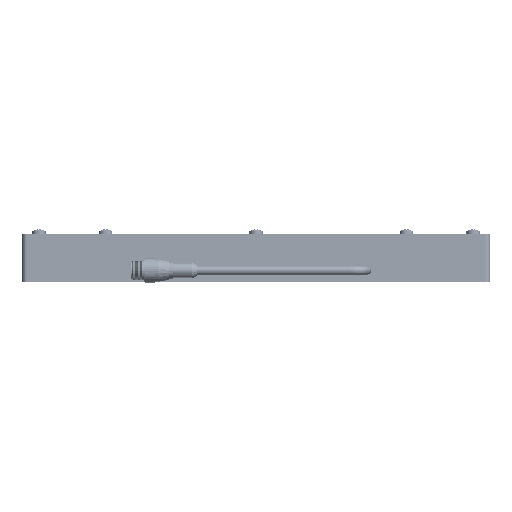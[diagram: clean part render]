
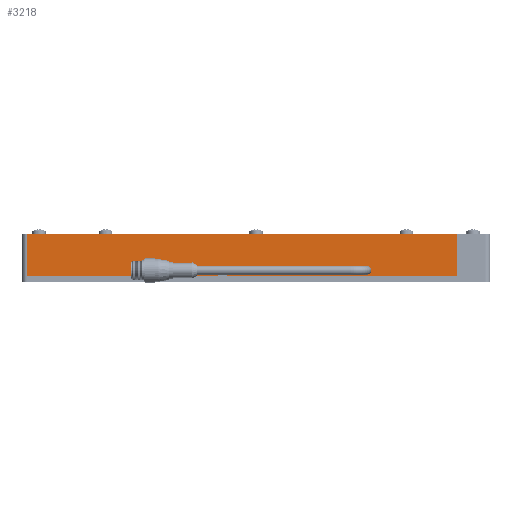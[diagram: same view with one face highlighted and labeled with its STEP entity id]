
A CAD part, front view. The second image highlights one B-rep face of the part: STEP entity #3218.
In plain terms, the highlighted planar face has unit normal (0, -1, 0) as drawn and (0, 0, -1) by its records, which use the part's own axes.
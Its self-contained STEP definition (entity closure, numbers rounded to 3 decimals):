
#299 = AXIS2_PLACEMENT_3D ( 'NONE', #3558, #13581, #7107 ) ;
#404 = DIRECTION ( 'NONE',  ( 0., 0., -1. ) ) ;
#524 = VERTEX_POINT ( 'NONE', #1115 ) ;
#557 = EDGE_CURVE ( 'NONE', #10042, #3434, #3996, .T. ) ;
#1115 = CARTESIAN_POINT ( 'NONE',  ( 17.079, -9.239, -10. ) ) ;
#1241 = VERTEX_POINT ( 'NONE', #11803 ) ;
#1345 = EDGE_CURVE ( 'NONE', #524, #3840, #2859, .T. ) ;
#1498 = VERTEX_POINT ( 'NONE', #10570 ) ;
#2036 = CARTESIAN_POINT ( 'NONE',  ( -140., -12.7, -10. ) ) ;
#2425 = ORIENTED_EDGE ( 'NONE', *, *, #4517, .T. ) ;
#2439 = DIRECTION ( 'NONE',  ( -1., 0., 0. ) ) ;
#2483 = LINE ( 'NONE', #11119, #13854 ) ;
#2546 = EDGE_CURVE ( 'NONE', #3840, #10113, #4102, .T. ) ;
#2859 = CIRCLE ( 'NONE', #10002, 2.381 ) ;
#2913 = CARTESIAN_POINT ( 'NONE',  ( -140., 12.7, -10. ) ) ;
#3139 = CARTESIAN_POINT ( 'NONE',  ( 22.921, -9.239, -10. ) ) ;
#3218 = ADVANCED_FACE ( 'NONE', ( #8095 ), #4898, .F. ) ;
#3434 = VERTEX_POINT ( 'NONE', #12324 ) ;
#3558 = CARTESIAN_POINT ( 'NONE',  ( 20.54, -9.239, -10. ) ) ;
#3563 = CARTESIAN_POINT ( 'NONE',  ( 19.46, -9.239, -10. ) ) ;
#3654 = AXIS2_PLACEMENT_3D ( 'NONE', #2913, #11421, #7183 ) ;
#3840 = VERTEX_POINT ( 'NONE', #8992 ) ;
#3996 = LINE ( 'NONE', #2036, #10923 ) ;
#4102 = CIRCLE ( 'NONE', #299, 2.381 ) ;
#4196 = LINE ( 'NONE', #12782, #13826 ) ;
#4517 = EDGE_CURVE ( 'NONE', #11620, #10042, #7024, .T. ) ;
#4898 = PLANE ( 'NONE',  #3654 ) ;
#4911 = LINE ( 'NONE', #6437, #13340 ) ;
#5252 = DIRECTION ( 'NONE',  ( -1., 0., 0. ) ) ;
#5346 = CARTESIAN_POINT ( 'NONE',  ( -120., 12.7, -10. ) ) ;
#5369 = ORIENTED_EDGE ( 'NONE', *, *, #12559, .F. ) ;
#5460 = CARTESIAN_POINT ( 'NONE',  ( -120., 396.775, -10. ) ) ;
#5953 = VECTOR ( 'NONE', #9722, 1000. ) ;
#6437 = CARTESIAN_POINT ( 'NONE',  ( -140., 12.7, -10. ) ) ;
#6452 = CARTESIAN_POINT ( 'NONE',  ( 136.825, 12.7, -10. ) ) ;
#6462 = ORIENTED_EDGE ( 'NONE', *, *, #557, .T. ) ;
#6556 = CARTESIAN_POINT ( 'NONE',  ( 136.825, -12.7, -10. ) ) ;
#6624 = EDGE_CURVE ( 'NONE', #1498, #1241, #4196, .T. ) ;
#7001 = ORIENTED_EDGE ( 'NONE', *, *, #12155, .F. ) ;
#7024 = LINE ( 'NONE', #12326, #9492 ) ;
#7107 = DIRECTION ( 'NONE',  ( 1., 0., 0. ) ) ;
#7183 = DIRECTION ( 'NONE',  ( 1., 0., 0. ) ) ;
#8095 = FACE_OUTER_BOUND ( 'NONE', #9377, .T. ) ;
#8275 = DIRECTION ( 'NONE',  ( -1., 0., 0. ) ) ;
#8728 = ORIENTED_EDGE ( 'NONE', *, *, #6624, .T. ) ;
#8797 = ORIENTED_EDGE ( 'NONE', *, *, #11665, .F. ) ;
#8902 = DIRECTION ( 'NONE',  ( 1., 0., 0. ) ) ;
#8992 = CARTESIAN_POINT ( 'NONE',  ( 20., -6.92, -10. ) ) ;
#9145 = DIRECTION ( 'NONE',  ( 0., 1., 0. ) ) ;
#9153 = DIRECTION ( 'NONE',  ( 0., -1., 0. ) ) ;
#9377 = EDGE_LOOP ( 'NONE', ( #12417, #5369, #8728, #7001, #13170, #2425, #6462, #8797, #9873 ) ) ;
#9492 = VECTOR ( 'NONE', #9153, 1000. ) ;
#9722 = DIRECTION ( 'NONE',  ( 0., -1., 0. ) ) ;
#9873 = ORIENTED_EDGE ( 'NONE', *, *, #2546, .F. ) ;
#10002 = AXIS2_PLACEMENT_3D ( 'NONE', #3563, #404, #8902 ) ;
#10042 = VERTEX_POINT ( 'NONE', #6556 ) ;
#10113 = VERTEX_POINT ( 'NONE', #3139 ) ;
#10570 = CARTESIAN_POINT ( 'NONE',  ( 17.079, -12.7, -10. ) ) ;
#10655 = EDGE_CURVE ( 'NONE', #11620, #10827, #4911, .T. ) ;
#10827 = VERTEX_POINT ( 'NONE', #5346 ) ;
#10923 = VECTOR ( 'NONE', #8275, 1000. ) ;
#11078 = DIRECTION ( 'NONE',  ( 0., -1., 0. ) ) ;
#11119 = CARTESIAN_POINT ( 'NONE',  ( 17.079, -12.7, -10. ) ) ;
#11421 = DIRECTION ( 'NONE',  ( 0., 0., 1. ) ) ;
#11581 = VECTOR ( 'NONE', #11078, 1000. ) ;
#11620 = VERTEX_POINT ( 'NONE', #6452 ) ;
#11665 = EDGE_CURVE ( 'NONE', #10113, #3434, #11933, .T. ) ;
#11803 = CARTESIAN_POINT ( 'NONE',  ( -120., -12.7, -10. ) ) ;
#11863 = LINE ( 'NONE', #5460, #5953 ) ;
#11933 = LINE ( 'NONE', #13199, #11581 ) ;
#12155 = EDGE_CURVE ( 'NONE', #10827, #1241, #11863, .T. ) ;
#12324 = CARTESIAN_POINT ( 'NONE',  ( 22.921, -12.7, -10. ) ) ;
#12326 = CARTESIAN_POINT ( 'NONE',  ( 136.825, 12.7, -10. ) ) ;
#12417 = ORIENTED_EDGE ( 'NONE', *, *, #1345, .F. ) ;
#12559 = EDGE_CURVE ( 'NONE', #1498, #524, #2483, .T. ) ;
#12782 = CARTESIAN_POINT ( 'NONE',  ( -140., -12.7, -10. ) ) ;
#13170 = ORIENTED_EDGE ( 'NONE', *, *, #10655, .F. ) ;
#13199 = CARTESIAN_POINT ( 'NONE',  ( 22.921, -12.7, -10. ) ) ;
#13340 = VECTOR ( 'NONE', #5252, 1000. ) ;
#13581 = DIRECTION ( 'NONE',  ( 0., 0., -1. ) ) ;
#13826 = VECTOR ( 'NONE', #2439, 1000. ) ;
#13854 = VECTOR ( 'NONE', #9145, 1000. ) ;
